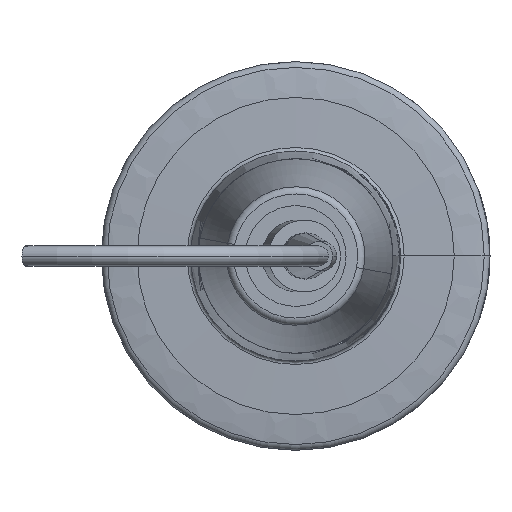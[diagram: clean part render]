
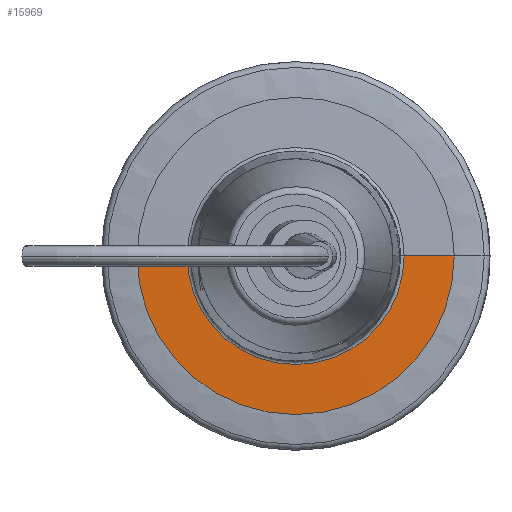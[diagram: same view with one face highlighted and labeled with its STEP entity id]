
A CAD part, left-side view. The second image highlights one B-rep face of the part: STEP entity #15969.
In plain terms, the highlighted conical face has half-angle 88 degrees and reference radius 22.025 mm.
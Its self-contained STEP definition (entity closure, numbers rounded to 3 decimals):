
#292 = CARTESIAN_POINT ( 'NONE',  ( -57.22, 15.074, 0. ) ) ;
#326 = CARTESIAN_POINT ( 'NONE',  ( -56.977, 22.025, 0. ) ) ;
#593 = CARTESIAN_POINT ( 'NONE',  ( -56.977, -22.025, 0. ) ) ;
#967 = CARTESIAN_POINT ( 'NONE',  ( -57.22, -15.074, 0. ) ) ;
#1598 = AXIS2_PLACEMENT_3D ( 'NONE', #11482, #10873, #10707 ) ;
#1972 = EDGE_CURVE ( 'NONE', #15098, #15094, #4736, .T. ) ;
#2268 = EDGE_CURVE ( 'NONE', #15026, #15188, #4693, .T. ) ;
#2366 = EDGE_CURVE ( 'NONE', #15098, #15026, #4678, .T. ) ;
#3321 = CARTESIAN_POINT ( 'NONE',  ( -56.977, 0., 0. ) ) ;
#3378 = DIRECTION ( 'NONE',  ( 1., 0., 0. ) ) ;
#3517 = DIRECTION ( 'NONE',  ( 0., 1., 0. ) ) ;
#4433 = ORIENTED_EDGE ( 'NONE', *, *, #2366, .T. ) ;
#4574 = ORIENTED_EDGE ( 'NONE', *, *, #5696, .F. ) ;
#4678 = CIRCLE ( 'NONE', #1598, 15.074 ) ;
#4693 = LINE ( 'NONE', #13033, #4695 ) ;
#4695 = VECTOR ( 'NONE', #12934, 1000. ) ;
#4736 = LINE ( 'NONE', #13605, #4738 ) ;
#4738 = VECTOR ( 'NONE', #13600, 1000. ) ;
#5696 = EDGE_CURVE ( 'NONE', #15094, #15188, #7328, .T. ) ;
#6294 = FACE_OUTER_BOUND ( 'NONE', #7226, .T. ) ;
#6302 = CONICAL_SURFACE ( 'NONE', #13376, 22.025, 1.536 ) ;
#7226 = EDGE_LOOP ( 'NONE', ( #8638, #4433, #9134, #4574 ) ) ;
#7328 = CIRCLE ( 'NONE', #15614, 22.025 ) ;
#7642 = DIRECTION ( 'NONE',  ( 1., 0., 0. ) ) ;
#7829 = CARTESIAN_POINT ( 'NONE',  ( -56.977, 0., 0. ) ) ;
#8269 = DIRECTION ( 'NONE',  ( 0., 1., 0. ) ) ;
#8638 = ORIENTED_EDGE ( 'NONE', *, *, #1972, .F. ) ;
#9134 = ORIENTED_EDGE ( 'NONE', *, *, #2268, .T. ) ;
#10707 = DIRECTION ( 'NONE',  ( 0., 1., 0. ) ) ;
#10873 = DIRECTION ( 'NONE',  ( 1., 0., 0. ) ) ;
#11482 = CARTESIAN_POINT ( 'NONE',  ( -57.22, 0., 0. ) ) ;
#12934 = DIRECTION ( 'NONE',  ( 0.035, 0.999, 0. ) ) ;
#13033 = CARTESIAN_POINT ( 'NONE',  ( -56.977, 22.025, 0. ) ) ;
#13376 = AXIS2_PLACEMENT_3D ( 'NONE', #7829, #7642, #8269 ) ;
#13600 = DIRECTION ( 'NONE',  ( 0.035, -0.999, 0. ) ) ;
#13605 = CARTESIAN_POINT ( 'NONE',  ( -56.977, -22.025, 0. ) ) ;
#15026 = VERTEX_POINT ( 'NONE', #292 ) ;
#15094 = VERTEX_POINT ( 'NONE', #593 ) ;
#15098 = VERTEX_POINT ( 'NONE', #967 ) ;
#15188 = VERTEX_POINT ( 'NONE', #326 ) ;
#15614 = AXIS2_PLACEMENT_3D ( 'NONE', #3321, #3378, #3517 ) ;
#15969 = ADVANCED_FACE ( 'NONE', ( #6294 ), #6302, .T. ) ;
